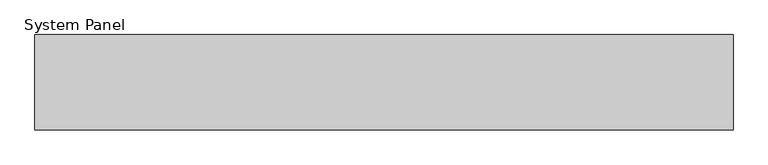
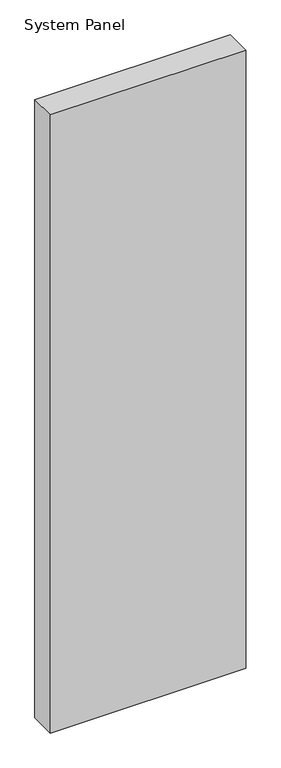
"""IFC4 building model written with IfcOpenShell, lengths in millimetres: plate geometry, System Panel : MetecnoPanel_150mm_Plain_Surfmist."""

from ifc_helpers import new_model, si_unit, origin, origin_with_axes, place, context, project, spatial, polyline, outline, extrude, source, transform, mapped, element, save


def system_panel_97bfa6f5(model_context):
    return source(origin(), model_context, "Body", "SweptSolid", [
        extrude(outline(polyline([(550.0, -150.0), (-550.0, -150.0), (-550.0, 0.0), (550.0, 0.0), (550.0, -150.0)])), origin_with_axes(), (0.0, 0.0, 1.0), 3679.9704237),
    ])


if __name__ == "__main__":
    model = new_model("IFC4")
    model_context = context("Model", 3, world=origin())
    ifc_project = project(units=[si_unit("LENGTHUNIT", "METRE", prefix="MILLI")], contexts=[model_context])
    site = spatial("IfcSite", under=ifc_project)
    building = spatial("IfcBuilding", under=site)
    placement = place(None, origin())
    system_panel_shape = system_panel_97bfa6f5(model_context)
    element("IfcPlate", 1, ObjectType="System Panel : MetecnoPanel_150mm_Plain_Surfmist", at=placement, inside=building, context=model_context, shape_type="MappedRepresentation", body=[
        mapped(system_panel_shape, transform((0.0, 0.0, 0.0), x_axis=(1.0, 0.0, 0.0), y_axis=(0.0, 1.0, 0.0), z_axis=(0.0, 0.0, 1.0))),
    ])
    save(model, "model.ifc")
